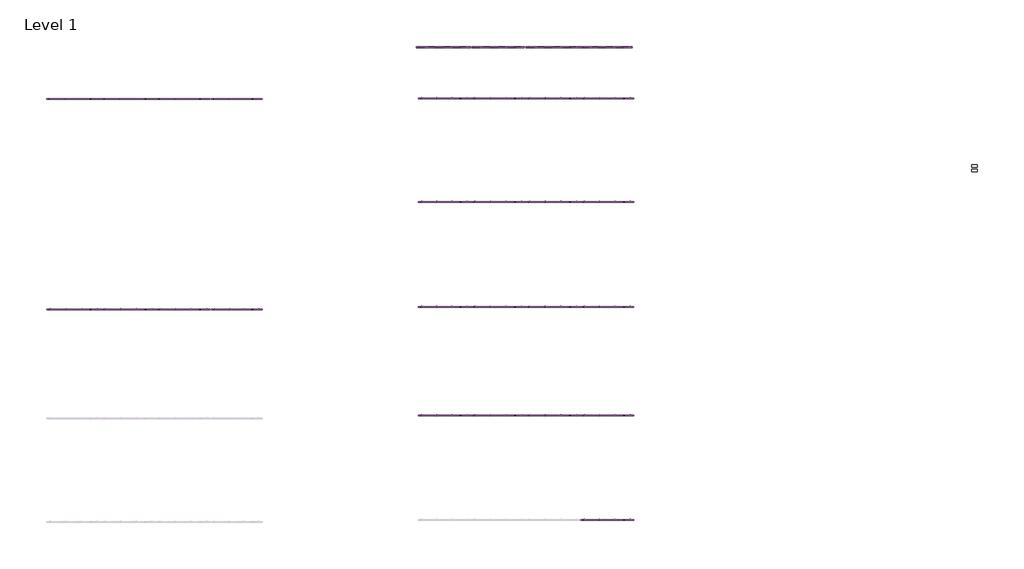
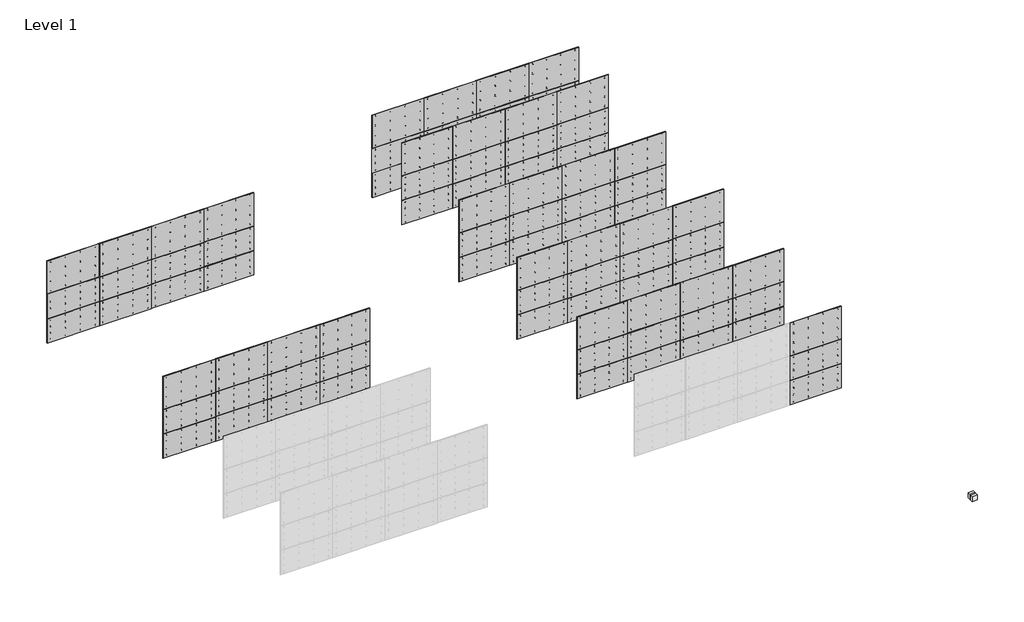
# One storey, part 2 of 2: 87 plates, 2 slabs.
"""IFC4 building model written with IfcOpenShell, lengths in millimetres."""

from ifc_helpers import new_model, si_unit, frame, origin, place, context, project, spatial, polyline, outline, extrude, transform, mapped, element, save
from components import plate_8bd8e4bf, plate_0a6a2763, plate_4df36928, plate_e7208e3d, plate_257bfe62, plate_956091e3, plate_f7e0e17a, plate_a8714ed1, plate_bebbbf79, plate_d884827e, plate_326bff25, plate_3361f752, plate_aa715eca, plate_cb0a7364, plate_44aea27e, plate_24d3d4b7, apex_01_5bf36cf1, apex_01_c70d3192, apex_01_cb4a7286, apex_01_872dbe5e, apex_01_94d3b953, apex_01_1a7e8140, apex_01_623eff0d, apex_01_2c32b375, apex_01_a5c02051, apex_01_d99c7350

model = new_model("IFC4")

# Units and contexts
model_context = context("Model", 3, world=origin())
ifc_project = project(units=[si_unit("LENGTHUNIT", "METRE", prefix="MILLI")], contexts=[model_context])

# Site, building, storey
site = spatial("IfcSite", under=ifc_project)
building = spatial("IfcBuilding", under=site)
storey = spatial("IfcBuildingStorey", under=building, Name="Level 1", Elevation=0.0)

# Plates
placement = place(None, origin())
plate_shape = plate_8bd8e4bf(model_context)
plate_2_shape = plate_0a6a2763(model_context)
element("IfcPlate", 1, ObjectType="Single-Panel-Perforated-Amico_Architectural : Sunshade", at=placement, inside=storey, context=model_context, shape_type="MappedRepresentation", body=[
    mapped(plate_shape, transform((-14878.4842074, 3313.6462305, 0.0), x_axis=(1.0, 0.0, 0.0), y_axis=(0.0, 1.0, 0.0), z_axis=(0.0, 0.0, 1.0))),
    mapped(plate_2_shape, transform((-14878.4842074, 3313.6462305, 0.0), x_axis=(1.0, 0.0, 0.0), y_axis=(0.0, 1.0, 0.0), z_axis=(0.0, 0.0, 1.0))),
])
element("IfcPlate", 2, ObjectType="Single-Panel-Perforated-Amico_Architectural : Sunshade", at=placement, inside=storey, context=model_context, shape_type="MappedRepresentation", body=[
    mapped(plate_shape, transform((-14878.4842074, 3313.6462305, 1511.3), x_axis=(1.0, 0.0, 0.0), y_axis=(0.0, 1.0, 0.0), z_axis=(0.0, 0.0, 1.0))),
    mapped(plate_2_shape, transform((-14878.4842074, 3313.6462305, 1511.3), x_axis=(1.0, 0.0, 0.0), y_axis=(0.0, 1.0, 0.0), z_axis=(0.0, 0.0, 1.0))),
])
plate_3_shape = plate_4df36928(model_context)
plate_4_shape = plate_e7208e3d(model_context)
element("IfcPlate", 3, ObjectType="Single-Panel-Perforated-Amico_Architectural : Sunshade", at=placement, inside=storey, context=model_context, shape_type="MappedRepresentation", body=[
    mapped(plate_3_shape, transform((-14878.4842074, 3313.6462305, 3022.6), x_axis=(1.0, 0.0, 0.0), y_axis=(0.0, 1.0, 0.0), z_axis=(0.0, 0.0, 1.0))),
    mapped(plate_4_shape, transform((-14878.4842074, 3313.6462305, 3022.6), x_axis=(1.0, 0.0, 0.0), y_axis=(0.0, 1.0, 0.0), z_axis=(0.0, 0.0, 1.0))),
])
plate_5_shape = plate_257bfe62(model_context)
plate_6_shape = plate_956091e3(model_context)
element("IfcPlate", 4, ObjectType="Single-Panel-Perforated-Amico_Architectural : Sunshade", at=placement, inside=storey, context=model_context, shape_type="MappedRepresentation", body=[
    mapped(plate_5_shape, transform((-11880.2630054, 3313.6462305, 0.0), x_axis=(1.0, 0.0, 0.0), y_axis=(0.0, 1.0, 0.0), z_axis=(0.0, 0.0, 1.0))),
    mapped(plate_6_shape, transform((-11880.2630054, 3313.6462305, 0.0), x_axis=(1.0, 0.0, 0.0), y_axis=(0.0, 1.0, 0.0), z_axis=(0.0, 0.0, 1.0))),
])
element("IfcPlate", 5, ObjectType="Single-Panel-Perforated-Amico_Architectural : Sunshade", at=placement, inside=storey, context=model_context, shape_type="MappedRepresentation", body=[
    mapped(plate_5_shape, transform((-8832.2630054, 3313.6462305, 0.0), x_axis=(1.0, 0.0, 0.0), y_axis=(0.0, 1.0, 0.0), z_axis=(0.0, 0.0, 1.0))),
    mapped(plate_6_shape, transform((-8832.2630054, 3313.6462305, 0.0), x_axis=(1.0, 0.0, 0.0), y_axis=(0.0, 1.0, 0.0), z_axis=(0.0, 0.0, 1.0))),
])
element("IfcPlate", 6, ObjectType="Single-Panel-Perforated-Amico_Architectural : Sunshade", at=placement, inside=storey, context=model_context, shape_type="MappedRepresentation", body=[
    mapped(plate_5_shape, transform((-11880.2630054, 3313.6462305, 1511.3), x_axis=(1.0, 0.0, 0.0), y_axis=(0.0, 1.0, 0.0), z_axis=(0.0, 0.0, 1.0))),
    mapped(plate_6_shape, transform((-11880.2630054, 3313.6462305, 1511.3), x_axis=(1.0, 0.0, 0.0), y_axis=(0.0, 1.0, 0.0), z_axis=(0.0, 0.0, 1.0))),
])
element("IfcPlate", 7, ObjectType="Single-Panel-Perforated-Amico_Architectural : Sunshade", at=placement, inside=storey, context=model_context, shape_type="MappedRepresentation", body=[
    mapped(plate_5_shape, transform((-8832.2630054, 3313.6462305, 1511.3), x_axis=(1.0, 0.0, 0.0), y_axis=(0.0, 1.0, 0.0), z_axis=(0.0, 0.0, 1.0))),
    mapped(plate_6_shape, transform((-8832.2630054, 3313.6462305, 1511.3), x_axis=(1.0, 0.0, 0.0), y_axis=(0.0, 1.0, 0.0), z_axis=(0.0, 0.0, 1.0))),
])
plate_7_shape = plate_f7e0e17a(model_context)
plate_8_shape = plate_a8714ed1(model_context)
element("IfcPlate", 8, ObjectType="Single-Panel-Perforated-Amico_Architectural : Sunshade", at=placement, inside=storey, context=model_context, shape_type="MappedRepresentation", body=[
    mapped(plate_7_shape, transform((-11880.2630054, 3313.6462305, 3022.6), x_axis=(1.0, 0.0, 0.0), y_axis=(0.0, 1.0, 0.0), z_axis=(0.0, 0.0, 1.0))),
    mapped(plate_8_shape, transform((-11880.2630054, 3313.6462305, 3022.6), x_axis=(1.0, 0.0, 0.0), y_axis=(0.0, 1.0, 0.0), z_axis=(0.0, 0.0, 1.0))),
])
element("IfcPlate", 9, ObjectType="Single-Panel-Perforated-Amico_Architectural : Sunshade", at=placement, inside=storey, context=model_context, shape_type="MappedRepresentation", body=[
    mapped(plate_7_shape, transform((-8832.2630054, 3313.6462305, 3022.6), x_axis=(1.0, 0.0, 0.0), y_axis=(0.0, 1.0, 0.0), z_axis=(0.0, 0.0, 1.0))),
    mapped(plate_8_shape, transform((-8832.2630054, 3313.6462305, 3022.6), x_axis=(1.0, 0.0, 0.0), y_axis=(0.0, 1.0, 0.0), z_axis=(0.0, 0.0, 1.0))),
])
plate_9_shape = plate_bebbbf79(model_context)
plate_10_shape = plate_d884827e(model_context)
element("IfcPlate", 10, ObjectType="Single-Panel-Perforated-Amico_Architectural : Sunshade", at=placement, inside=storey, context=model_context, shape_type="MappedRepresentation", body=[
    mapped(plate_9_shape, transform((-5810.6842074, 3313.6462305, 0.0), x_axis=(1.0, 0.0, 0.0), y_axis=(0.0, 1.0, 0.0), z_axis=(0.0, 0.0, 1.0))),
    mapped(plate_10_shape, transform((-5810.6842074, 3313.6462305, 0.0), x_axis=(1.0, 0.0, 0.0), y_axis=(0.0, 1.0, 0.0), z_axis=(0.0, 0.0, 1.0))),
])
element("IfcPlate", 11, ObjectType="Single-Panel-Perforated-Amico_Architectural : Sunshade", at=placement, inside=storey, context=model_context, shape_type="MappedRepresentation", body=[
    mapped(plate_9_shape, transform((-5810.6842074, 3313.6462305, 1511.3), x_axis=(1.0, 0.0, 0.0), y_axis=(0.0, 1.0, 0.0), z_axis=(0.0, 0.0, 1.0))),
    mapped(plate_10_shape, transform((-5810.6842074, 3313.6462305, 1511.3), x_axis=(1.0, 0.0, 0.0), y_axis=(0.0, 1.0, 0.0), z_axis=(0.0, 0.0, 1.0))),
])
plate_11_shape = plate_326bff25(model_context)
plate_12_shape = plate_3361f752(model_context)
element("IfcPlate", 12, ObjectType="Single-Panel-Perforated-Amico_Architectural : Sunshade", at=placement, inside=storey, context=model_context, shape_type="MappedRepresentation", body=[
    mapped(plate_11_shape, transform((-5810.6842074, 3313.6462305, 3022.6), x_axis=(1.0, 0.0, 0.0), y_axis=(0.0, 1.0, 0.0), z_axis=(0.0, 0.0, 1.0))),
    mapped(plate_12_shape, transform((-5810.6842074, 3313.6462305, 3022.6), x_axis=(1.0, 0.0, 0.0), y_axis=(0.0, 1.0, 0.0), z_axis=(0.0, 0.0, 1.0))),
])
element("IfcPlate", 13, ObjectType="Single-Panel-Perforated-Amico_Architectural : Bilbao", at=placement, inside=storey, context=model_context, shape_type="MappedRepresentation", body=[
    mapped(plate_9_shape, transform((-5810.6842074, -8531.0307626, 0.0), x_axis=(1.0, 0.0, 0.0), y_axis=(0.0, 1.0, 0.0), z_axis=(0.0, 0.0, 1.0))),
    mapped(plate_10_shape, transform((-5810.6842074, -8531.0307626, 0.0), x_axis=(1.0, 0.0, 0.0), y_axis=(0.0, 1.0, 0.0), z_axis=(0.0, 0.0, 1.0))),
])
element("IfcPlate", 14, ObjectType="Single-Panel-Perforated-Amico_Architectural : Bilbao", at=placement, inside=storey, context=model_context, shape_type="MappedRepresentation", body=[
    mapped(plate_9_shape, transform((-5810.6842074, -8531.0307626, 1511.3), x_axis=(1.0, 0.0, 0.0), y_axis=(0.0, 1.0, 0.0), z_axis=(0.0, 0.0, 1.0))),
    mapped(plate_10_shape, transform((-5810.6842074, -8531.0307626, 1511.3), x_axis=(1.0, 0.0, 0.0), y_axis=(0.0, 1.0, 0.0), z_axis=(0.0, 0.0, 1.0))),
])
element("IfcPlate", 15, ObjectType="Single-Panel-Perforated-Amico_Architectural : Bilbao", at=placement, inside=storey, context=model_context, shape_type="MappedRepresentation", body=[
    mapped(plate_11_shape, transform((-5810.6842074, -8531.0307626, 3022.6), x_axis=(1.0, 0.0, 0.0), y_axis=(0.0, 1.0, 0.0), z_axis=(0.0, 0.0, 1.0))),
    mapped(plate_12_shape, transform((-5810.6842074, -8531.0307626, 3022.6), x_axis=(1.0, 0.0, 0.0), y_axis=(0.0, 1.0, 0.0), z_axis=(0.0, 0.0, 1.0))),
])
element("IfcPlate", 16, ObjectType="Single-Panel-Perforated-Amico_Architectural : 1/4\" Circle - 3/8\" Staggered", at=placement, inside=storey, context=model_context, shape_type="MappedRepresentation", body=[
    mapped(plate_shape, transform((-14878.4842074, -2714.4307626, 0.0), x_axis=(1.0, 0.0, 0.0), y_axis=(0.0, 1.0, 0.0), z_axis=(0.0, 0.0, 1.0))),
    mapped(plate_2_shape, transform((-14878.4842074, -2714.4307626, 0.0), x_axis=(1.0, 0.0, 0.0), y_axis=(0.0, 1.0, 0.0), z_axis=(0.0, 0.0, 1.0))),
])
element("IfcPlate", 17, ObjectType="Single-Panel-Perforated-Amico_Architectural : 1/4\" Circle - 3/8\" Staggered", at=placement, inside=storey, context=model_context, shape_type="MappedRepresentation", body=[
    mapped(plate_shape, transform((-14878.4842074, -2714.4307626, 1511.3), x_axis=(1.0, 0.0, 0.0), y_axis=(0.0, 1.0, 0.0), z_axis=(0.0, 0.0, 1.0))),
    mapped(plate_2_shape, transform((-14878.4842074, -2714.4307626, 1511.3), x_axis=(1.0, 0.0, 0.0), y_axis=(0.0, 1.0, 0.0), z_axis=(0.0, 0.0, 1.0))),
])
element("IfcPlate", 18, ObjectType="Single-Panel-Perforated-Amico_Architectural : 1/4\" Circle - 3/8\" Staggered", at=placement, inside=storey, context=model_context, shape_type="MappedRepresentation", body=[
    mapped(plate_3_shape, transform((-14878.4842074, -2714.4307626, 3022.6), x_axis=(1.0, 0.0, 0.0), y_axis=(0.0, 1.0, 0.0), z_axis=(0.0, 0.0, 1.0))),
    mapped(plate_4_shape, transform((-14878.4842074, -2714.4307626, 3022.6), x_axis=(1.0, 0.0, 0.0), y_axis=(0.0, 1.0, 0.0), z_axis=(0.0, 0.0, 1.0))),
])
element("IfcPlate", 19, ObjectType="Single-Panel-Perforated-Amico_Architectural : 1/4\" Circle - 3/8\" Staggered", at=placement, inside=storey, context=model_context, shape_type="MappedRepresentation", body=[
    mapped(plate_5_shape, transform((-11880.2630054, -2714.4307626, 0.0), x_axis=(1.0, 0.0, 0.0), y_axis=(0.0, 1.0, 0.0), z_axis=(0.0, 0.0, 1.0))),
    mapped(plate_6_shape, transform((-11880.2630054, -2714.4307626, 0.0), x_axis=(1.0, 0.0, 0.0), y_axis=(0.0, 1.0, 0.0), z_axis=(0.0, 0.0, 1.0))),
])
element("IfcPlate", 20, ObjectType="Single-Panel-Perforated-Amico_Architectural : 1/4\" Circle - 3/8\" Staggered", at=placement, inside=storey, context=model_context, shape_type="MappedRepresentation", body=[
    mapped(plate_5_shape, transform((-8832.2630054, -2714.4307626, 0.0), x_axis=(1.0, 0.0, 0.0), y_axis=(0.0, 1.0, 0.0), z_axis=(0.0, 0.0, 1.0))),
    mapped(plate_6_shape, transform((-8832.2630054, -2714.4307626, 0.0), x_axis=(1.0, 0.0, 0.0), y_axis=(0.0, 1.0, 0.0), z_axis=(0.0, 0.0, 1.0))),
])
element("IfcPlate", 21, ObjectType="Single-Panel-Perforated-Amico_Architectural : 1/4\" Circle - 3/8\" Staggered", at=placement, inside=storey, context=model_context, shape_type="MappedRepresentation", body=[
    mapped(plate_5_shape, transform((-11880.2630054, -2714.4307626, 1511.3), x_axis=(1.0, 0.0, 0.0), y_axis=(0.0, 1.0, 0.0), z_axis=(0.0, 0.0, 1.0))),
    mapped(plate_6_shape, transform((-11880.2630054, -2714.4307626, 1511.3), x_axis=(1.0, 0.0, 0.0), y_axis=(0.0, 1.0, 0.0), z_axis=(0.0, 0.0, 1.0))),
])
element("IfcPlate", 22, ObjectType="Single-Panel-Perforated-Amico_Architectural : 1/4\" Circle - 3/8\" Staggered", at=placement, inside=storey, context=model_context, shape_type="MappedRepresentation", body=[
    mapped(plate_5_shape, transform((-8832.2630054, -2714.4307626, 1511.3), x_axis=(1.0, 0.0, 0.0), y_axis=(0.0, 1.0, 0.0), z_axis=(0.0, 0.0, 1.0))),
    mapped(plate_6_shape, transform((-8832.2630054, -2714.4307626, 1511.3), x_axis=(1.0, 0.0, 0.0), y_axis=(0.0, 1.0, 0.0), z_axis=(0.0, 0.0, 1.0))),
])
element("IfcPlate", 23, ObjectType="Single-Panel-Perforated-Amico_Architectural : 1/4\" Circle - 3/8\" Staggered", at=placement, inside=storey, context=model_context, shape_type="MappedRepresentation", body=[
    mapped(plate_7_shape, transform((-11880.2630054, -2714.4307626, 3022.6), x_axis=(1.0, 0.0, 0.0), y_axis=(0.0, 1.0, 0.0), z_axis=(0.0, 0.0, 1.0))),
    mapped(plate_8_shape, transform((-11880.2630054, -2714.4307626, 3022.6), x_axis=(1.0, 0.0, 0.0), y_axis=(0.0, 1.0, 0.0), z_axis=(0.0, 0.0, 1.0))),
])
element("IfcPlate", 24, ObjectType="Single-Panel-Perforated-Amico_Architectural : 1/4\" Circle - 3/8\" Staggered", at=placement, inside=storey, context=model_context, shape_type="MappedRepresentation", body=[
    mapped(plate_7_shape, transform((-8832.2630054, -2714.4307626, 3022.6), x_axis=(1.0, 0.0, 0.0), y_axis=(0.0, 1.0, 0.0), z_axis=(0.0, 0.0, 1.0))),
    mapped(plate_8_shape, transform((-8832.2630054, -2714.4307626, 3022.6), x_axis=(1.0, 0.0, 0.0), y_axis=(0.0, 1.0, 0.0), z_axis=(0.0, 0.0, 1.0))),
])
element("IfcPlate", 25, ObjectType="Single-Panel-Perforated-Amico_Architectural : 1/4\" Circle - 3/8\" Staggered", at=placement, inside=storey, context=model_context, shape_type="MappedRepresentation", body=[
    mapped(plate_9_shape, transform((-5810.6842074, -2714.4307626, 0.0), x_axis=(1.0, 0.0, 0.0), y_axis=(0.0, 1.0, 0.0), z_axis=(0.0, 0.0, 1.0))),
    mapped(plate_10_shape, transform((-5810.6842074, -2714.4307626, 0.0), x_axis=(1.0, 0.0, 0.0), y_axis=(0.0, 1.0, 0.0), z_axis=(0.0, 0.0, 1.0))),
])
element("IfcPlate", 26, ObjectType="Single-Panel-Perforated-Amico_Architectural : 1/4\" Circle - 3/8\" Staggered", at=placement, inside=storey, context=model_context, shape_type="MappedRepresentation", body=[
    mapped(plate_9_shape, transform((-5810.6842074, -2714.4307626, 1511.3), x_axis=(1.0, 0.0, 0.0), y_axis=(0.0, 1.0, 0.0), z_axis=(0.0, 0.0, 1.0))),
    mapped(plate_10_shape, transform((-5810.6842074, -2714.4307626, 1511.3), x_axis=(1.0, 0.0, 0.0), y_axis=(0.0, 1.0, 0.0), z_axis=(0.0, 0.0, 1.0))),
])
element("IfcPlate", 27, ObjectType="Single-Panel-Perforated-Amico_Architectural : 1/4\" Circle - 3/8\" Staggered", at=placement, inside=storey, context=model_context, shape_type="MappedRepresentation", body=[
    mapped(plate_11_shape, transform((-5810.6842074, -2714.4307626, 3022.6), x_axis=(1.0, 0.0, 0.0), y_axis=(0.0, 1.0, 0.0), z_axis=(0.0, 0.0, 1.0))),
    mapped(plate_12_shape, transform((-5810.6842074, -2714.4307626, 3022.6), x_axis=(1.0, 0.0, 0.0), y_axis=(0.0, 1.0, 0.0), z_axis=(0.0, 0.0, 1.0))),
])
element("IfcPlate", 28, ObjectType="Single-Panel-Perforated-Amico_Architectural : 3/4\" Circle - 1\" Staggered", at=placement, inside=storey, context=model_context, shape_type="MappedRepresentation", body=[
    mapped(plate_5_shape, transform((-35489.5630054, 3186.6462305, 0.0), x_axis=(1.0, 0.0, 0.0), y_axis=(0.0, 1.0, 0.0), z_axis=(0.0, 0.0, 1.0))),
    mapped(plate_6_shape, transform((-35489.5630054, 3186.6462305, 0.0), x_axis=(1.0, 0.0, 0.0), y_axis=(0.0, 1.0, 0.0), z_axis=(0.0, 0.0, 1.0))),
])
element("IfcPlate", 29, ObjectType="Single-Panel-Perforated-Amico_Architectural : 3/4\" Circle - 1\" Staggered", at=placement, inside=storey, context=model_context, shape_type="MappedRepresentation", body=[
    mapped(plate_5_shape, transform((-32441.5630054, 3186.6462305, 0.0), x_axis=(1.0, 0.0, 0.0), y_axis=(0.0, 1.0, 0.0), z_axis=(0.0, 0.0, 1.0))),
    mapped(plate_6_shape, transform((-32441.5630054, 3186.6462305, 0.0), x_axis=(1.0, 0.0, 0.0), y_axis=(0.0, 1.0, 0.0), z_axis=(0.0, 0.0, 1.0))),
])
element("IfcPlate", 30, ObjectType="Single-Panel-Perforated-Amico_Architectural : 3/4\" Circle - 1\" Staggered", at=placement, inside=storey, context=model_context, shape_type="MappedRepresentation", body=[
    mapped(plate_5_shape, transform((-29393.5630054, 3186.6462305, 0.0), x_axis=(1.0, 0.0, 0.0), y_axis=(0.0, 1.0, 0.0), z_axis=(0.0, 0.0, 1.0))),
    mapped(plate_6_shape, transform((-29393.5630054, 3186.6462305, 0.0), x_axis=(1.0, 0.0, 0.0), y_axis=(0.0, 1.0, 0.0), z_axis=(0.0, 0.0, 1.0))),
])
element("IfcPlate", 31, ObjectType="Single-Panel-Perforated-Amico_Architectural : 3/4\" Circle - 1\" Staggered", at=placement, inside=storey, context=model_context, shape_type="MappedRepresentation", body=[
    mapped(plate_5_shape, transform((-35489.5630054, 3186.6462305, 1511.3), x_axis=(1.0, 0.0, 0.0), y_axis=(0.0, 1.0, 0.0), z_axis=(0.0, 0.0, 1.0))),
    mapped(plate_6_shape, transform((-35489.5630054, 3186.6462305, 1511.3), x_axis=(1.0, 0.0, 0.0), y_axis=(0.0, 1.0, 0.0), z_axis=(0.0, 0.0, 1.0))),
])
element("IfcPlate", 32, ObjectType="Single-Panel-Perforated-Amico_Architectural : 3/4\" Circle - 1\" Staggered", at=placement, inside=storey, context=model_context, shape_type="MappedRepresentation", body=[
    mapped(plate_5_shape, transform((-32441.5630054, 3186.6462305, 1511.3), x_axis=(1.0, 0.0, 0.0), y_axis=(0.0, 1.0, 0.0), z_axis=(0.0, 0.0, 1.0))),
    mapped(plate_6_shape, transform((-32441.5630054, 3186.6462305, 1511.3), x_axis=(1.0, 0.0, 0.0), y_axis=(0.0, 1.0, 0.0), z_axis=(0.0, 0.0, 1.0))),
])
element("IfcPlate", 33, ObjectType="Single-Panel-Perforated-Amico_Architectural : 3/4\" Circle - 1\" Staggered", at=placement, inside=storey, context=model_context, shape_type="MappedRepresentation", body=[
    mapped(plate_5_shape, transform((-29393.5630054, 3186.6462305, 1511.3), x_axis=(1.0, 0.0, 0.0), y_axis=(0.0, 1.0, 0.0), z_axis=(0.0, 0.0, 1.0))),
    mapped(plate_6_shape, transform((-29393.5630054, 3186.6462305, 1511.3), x_axis=(1.0, 0.0, 0.0), y_axis=(0.0, 1.0, 0.0), z_axis=(0.0, 0.0, 1.0))),
])
element("IfcPlate", 34, ObjectType="Single-Panel-Perforated-Amico_Architectural : 3/4\" Circle - 1\" Staggered", at=placement, inside=storey, context=model_context, shape_type="MappedRepresentation", body=[
    mapped(plate_7_shape, transform((-35489.5630054, 3186.6462305, 3022.6), x_axis=(1.0, 0.0, 0.0), y_axis=(0.0, 1.0, 0.0), z_axis=(0.0, 0.0, 1.0))),
    mapped(plate_8_shape, transform((-35489.5630054, 3186.6462305, 3022.6), x_axis=(1.0, 0.0, 0.0), y_axis=(0.0, 1.0, 0.0), z_axis=(0.0, 0.0, 1.0))),
])
element("IfcPlate", 35, ObjectType="Single-Panel-Perforated-Amico_Architectural : 3/4\" Circle - 1\" Staggered", at=placement, inside=storey, context=model_context, shape_type="MappedRepresentation", body=[
    mapped(plate_7_shape, transform((-32441.5630054, 3186.6462305, 3022.6), x_axis=(1.0, 0.0, 0.0), y_axis=(0.0, 1.0, 0.0), z_axis=(0.0, 0.0, 1.0))),
    mapped(plate_8_shape, transform((-32441.5630054, 3186.6462305, 3022.6), x_axis=(1.0, 0.0, 0.0), y_axis=(0.0, 1.0, 0.0), z_axis=(0.0, 0.0, 1.0))),
])
element("IfcPlate", 36, ObjectType="Single-Panel-Perforated-Amico_Architectural : 3/4\" Circle - 1\" Staggered", at=placement, inside=storey, context=model_context, shape_type="MappedRepresentation", body=[
    mapped(plate_7_shape, transform((-29393.5630054, 3186.6462305, 3022.6), x_axis=(1.0, 0.0, 0.0), y_axis=(0.0, 1.0, 0.0), z_axis=(0.0, 0.0, 1.0))),
    mapped(plate_8_shape, transform((-29393.5630054, 3186.6462305, 3022.6), x_axis=(1.0, 0.0, 0.0), y_axis=(0.0, 1.0, 0.0), z_axis=(0.0, 0.0, 1.0))),
])
plate_13_shape = plate_aa715eca(model_context)
plate_14_shape = plate_cb0a7364(model_context)
element("IfcPlate", 37, ObjectType="Single-Panel-Perforated-Amico_Architectural : 3/4\" Circle - 1\" Staggered", at=placement, inside=storey, context=model_context, shape_type="MappedRepresentation", body=[
    mapped(plate_13_shape, transform((-26421.7630054, 3186.6462305, 0.0), x_axis=(1.0, 0.0, 0.0), y_axis=(0.0, 1.0, 0.0), z_axis=(0.0, 0.0, 1.0))),
    mapped(plate_14_shape, transform((-26421.7630054, 3186.6462305, 0.0), x_axis=(1.0, 0.0, 0.0), y_axis=(0.0, 1.0, 0.0), z_axis=(0.0, 0.0, 1.0))),
])
element("IfcPlate", 38, ObjectType="Single-Panel-Perforated-Amico_Architectural : 3/4\" Circle - 1\" Staggered", at=placement, inside=storey, context=model_context, shape_type="MappedRepresentation", body=[
    mapped(plate_13_shape, transform((-26421.7630054, 3186.6462305, 1511.3), x_axis=(1.0, 0.0, 0.0), y_axis=(0.0, 1.0, 0.0), z_axis=(0.0, 0.0, 1.0))),
    mapped(plate_14_shape, transform((-26421.7630054, 3186.6462305, 1511.3), x_axis=(1.0, 0.0, 0.0), y_axis=(0.0, 1.0, 0.0), z_axis=(0.0, 0.0, 1.0))),
])
plate_15_shape = plate_44aea27e(model_context)
plate_16_shape = plate_24d3d4b7(model_context)
element("IfcPlate", 39, ObjectType="Single-Panel-Perforated-Amico_Architectural : 3/4\" Circle - 1\" Staggered", at=placement, inside=storey, context=model_context, shape_type="MappedRepresentation", body=[
    mapped(plate_15_shape, transform((-26421.7630054, 3186.6462305, 3022.6), x_axis=(1.0, 0.0, 0.0), y_axis=(0.0, 1.0, 0.0), z_axis=(0.0, 0.0, 1.0))),
    mapped(plate_16_shape, transform((-26421.7630054, 3186.6462305, 3022.6), x_axis=(1.0, 0.0, 0.0), y_axis=(0.0, 1.0, 0.0), z_axis=(0.0, 0.0, 1.0))),
])
element("IfcPlate", 40, ObjectType="Single-Panel-Perforated-Amico_Architectural : 9/16\" Circle - 11/16\" Staggered", at=placement, inside=storey, context=model_context, shape_type="MappedRepresentation", body=[
    mapped(plate_shape, transform((-14878.4842074, 14922.2272827, 0.0), x_axis=(1.0, 0.0, 0.0), y_axis=(0.0, 1.0, 0.0), z_axis=(0.0, 0.0, 1.0))),
    mapped(plate_2_shape, transform((-14878.4842074, 14922.2272827, 0.0), x_axis=(1.0, 0.0, 0.0), y_axis=(0.0, 1.0, 0.0), z_axis=(0.0, 0.0, 1.0))),
])
element("IfcPlate", 41, ObjectType="Single-Panel-Perforated-Amico_Architectural : 9/16\" Circle - 11/16\" Staggered", at=placement, inside=storey, context=model_context, shape_type="MappedRepresentation", body=[
    mapped(plate_shape, transform((-14878.4842074, 14922.2272827, 1511.3), x_axis=(1.0, 0.0, 0.0), y_axis=(0.0, 1.0, 0.0), z_axis=(0.0, 0.0, 1.0))),
    mapped(plate_2_shape, transform((-14878.4842074, 14922.2272827, 1511.3), x_axis=(1.0, 0.0, 0.0), y_axis=(0.0, 1.0, 0.0), z_axis=(0.0, 0.0, 1.0))),
])
element("IfcPlate", 42, ObjectType="Single-Panel-Perforated-Amico_Architectural : 9/16\" Circle - 11/16\" Staggered", at=placement, inside=storey, context=model_context, shape_type="MappedRepresentation", body=[
    mapped(plate_3_shape, transform((-14878.4842074, 14922.2272827, 3022.6), x_axis=(1.0, 0.0, 0.0), y_axis=(0.0, 1.0, 0.0), z_axis=(0.0, 0.0, 1.0))),
    mapped(plate_4_shape, transform((-14878.4842074, 14922.2272827, 3022.6), x_axis=(1.0, 0.0, 0.0), y_axis=(0.0, 1.0, 0.0), z_axis=(0.0, 0.0, 1.0))),
])
element("IfcPlate", 43, ObjectType="Single-Panel-Perforated-Amico_Architectural : 9/16\" Circle - 11/16\" Staggered", at=placement, inside=storey, context=model_context, shape_type="MappedRepresentation", body=[
    mapped(plate_5_shape, transform((-11880.2630054, 14922.2272827, 0.0), x_axis=(1.0, 0.0, 0.0), y_axis=(0.0, 1.0, 0.0), z_axis=(0.0, 0.0, 1.0))),
    mapped(plate_6_shape, transform((-11880.2630054, 14922.2272827, 0.0), x_axis=(1.0, 0.0, 0.0), y_axis=(0.0, 1.0, 0.0), z_axis=(0.0, 0.0, 1.0))),
])
element("IfcPlate", 44, ObjectType="Single-Panel-Perforated-Amico_Architectural : 9/16\" Circle - 11/16\" Staggered", at=placement, inside=storey, context=model_context, shape_type="MappedRepresentation", body=[
    mapped(plate_5_shape, transform((-8832.2630054, 14922.2272827, 0.0), x_axis=(1.0, 0.0, 0.0), y_axis=(0.0, 1.0, 0.0), z_axis=(0.0, 0.0, 1.0))),
    mapped(plate_6_shape, transform((-8832.2630054, 14922.2272827, 0.0), x_axis=(1.0, 0.0, 0.0), y_axis=(0.0, 1.0, 0.0), z_axis=(0.0, 0.0, 1.0))),
])
element("IfcPlate", 45, ObjectType="Single-Panel-Perforated-Amico_Architectural : 9/16\" Circle - 11/16\" Staggered", at=placement, inside=storey, context=model_context, shape_type="MappedRepresentation", body=[
    mapped(plate_5_shape, transform((-11880.2630054, 14922.2272827, 1511.3), x_axis=(1.0, 0.0, 0.0), y_axis=(0.0, 1.0, 0.0), z_axis=(0.0, 0.0, 1.0))),
    mapped(plate_6_shape, transform((-11880.2630054, 14922.2272827, 1511.3), x_axis=(1.0, 0.0, 0.0), y_axis=(0.0, 1.0, 0.0), z_axis=(0.0, 0.0, 1.0))),
])
element("IfcPlate", 46, ObjectType="Single-Panel-Perforated-Amico_Architectural : 9/16\" Circle - 11/16\" Staggered", at=placement, inside=storey, context=model_context, shape_type="MappedRepresentation", body=[
    mapped(plate_5_shape, transform((-8832.2630054, 14922.2272827, 1511.3), x_axis=(1.0, 0.0, 0.0), y_axis=(0.0, 1.0, 0.0), z_axis=(0.0, 0.0, 1.0))),
    mapped(plate_6_shape, transform((-8832.2630054, 14922.2272827, 1511.3), x_axis=(1.0, 0.0, 0.0), y_axis=(0.0, 1.0, 0.0), z_axis=(0.0, 0.0, 1.0))),
])
element("IfcPlate", 47, ObjectType="Single-Panel-Perforated-Amico_Architectural : 9/16\" Circle - 11/16\" Staggered", at=placement, inside=storey, context=model_context, shape_type="MappedRepresentation", body=[
    mapped(plate_7_shape, transform((-11880.2630054, 14922.2272827, 3022.6), x_axis=(1.0, 0.0, 0.0), y_axis=(0.0, 1.0, 0.0), z_axis=(0.0, 0.0, 1.0))),
    mapped(plate_8_shape, transform((-11880.2630054, 14922.2272827, 3022.6), x_axis=(1.0, 0.0, 0.0), y_axis=(0.0, 1.0, 0.0), z_axis=(0.0, 0.0, 1.0))),
])
element("IfcPlate", 48, ObjectType="Single-Panel-Perforated-Amico_Architectural : 9/16\" Circle - 11/16\" Staggered", at=placement, inside=storey, context=model_context, shape_type="MappedRepresentation", body=[
    mapped(plate_7_shape, transform((-8832.2630054, 14922.2272827, 3022.6), x_axis=(1.0, 0.0, 0.0), y_axis=(0.0, 1.0, 0.0), z_axis=(0.0, 0.0, 1.0))),
    mapped(plate_8_shape, transform((-8832.2630054, 14922.2272827, 3022.6), x_axis=(1.0, 0.0, 0.0), y_axis=(0.0, 1.0, 0.0), z_axis=(0.0, 0.0, 1.0))),
])
element("IfcPlate", 49, ObjectType="Single-Panel-Perforated-Amico_Architectural : 9/16\" Circle - 11/16\" Staggered", at=placement, inside=storey, context=model_context, shape_type="MappedRepresentation", body=[
    mapped(plate_9_shape, transform((-5810.6842074, 14922.2272827, 0.0), x_axis=(1.0, 0.0, 0.0), y_axis=(0.0, 1.0, 0.0), z_axis=(0.0, 0.0, 1.0))),
    mapped(plate_10_shape, transform((-5810.6842074, 14922.2272827, 0.0), x_axis=(1.0, 0.0, 0.0), y_axis=(0.0, 1.0, 0.0), z_axis=(0.0, 0.0, 1.0))),
])
element("IfcPlate", 50, ObjectType="Single-Panel-Perforated-Amico_Architectural : 9/16\" Circle - 11/16\" Staggered", at=placement, inside=storey, context=model_context, shape_type="MappedRepresentation", body=[
    mapped(plate_9_shape, transform((-5810.6842074, 14922.2272827, 1511.3), x_axis=(1.0, 0.0, 0.0), y_axis=(0.0, 1.0, 0.0), z_axis=(0.0, 0.0, 1.0))),
    mapped(plate_10_shape, transform((-5810.6842074, 14922.2272827, 1511.3), x_axis=(1.0, 0.0, 0.0), y_axis=(0.0, 1.0, 0.0), z_axis=(0.0, 0.0, 1.0))),
])
element("IfcPlate", 51, ObjectType="Single-Panel-Perforated-Amico_Architectural : 9/16\" Circle - 11/16\" Staggered", at=placement, inside=storey, context=model_context, shape_type="MappedRepresentation", body=[
    mapped(plate_11_shape, transform((-5810.6842074, 14922.2272827, 3022.6), x_axis=(1.0, 0.0, 0.0), y_axis=(0.0, 1.0, 0.0), z_axis=(0.0, 0.0, 1.0))),
    mapped(plate_12_shape, transform((-5810.6842074, 14922.2272827, 3022.6), x_axis=(1.0, 0.0, 0.0), y_axis=(0.0, 1.0, 0.0), z_axis=(0.0, 0.0, 1.0))),
])
element("IfcPlate", 52, ObjectType="Single-Panel-Perforated-Amico_Architectural : Apex 01", at=placement, inside=storey, context=model_context, shape_type="MappedRepresentation", body=[
    mapped(plate_5_shape, transform((-35489.5630054, 14872.2337305, 0.0), x_axis=(1.0, 0.0, 0.0), y_axis=(0.0, 1.0, 0.0), z_axis=(0.0, 0.0, 1.0))),
    mapped(plate_6_shape, transform((-35489.5630054, 14872.2337305, 0.0), x_axis=(1.0, 0.0, 0.0), y_axis=(0.0, 1.0, 0.0), z_axis=(0.0, 0.0, 1.0))),
])
element("IfcPlate", 53, ObjectType="Single-Panel-Perforated-Amico_Architectural : Apex 01", at=placement, inside=storey, context=model_context, shape_type="MappedRepresentation", body=[
    mapped(plate_5_shape, transform((-29393.5630054, 14872.2337305, 0.0), x_axis=(1.0, 0.0, 0.0), y_axis=(0.0, 1.0, 0.0), z_axis=(0.0, 0.0, 1.0))),
    mapped(plate_6_shape, transform((-29393.5630054, 14872.2337305, 0.0), x_axis=(1.0, 0.0, 0.0), y_axis=(0.0, 1.0, 0.0), z_axis=(0.0, 0.0, 1.0))),
])
element("IfcPlate", 54, ObjectType="Single-Panel-Perforated-Amico_Architectural : Apex 01", at=placement, inside=storey, context=model_context, shape_type="MappedRepresentation", body=[
    mapped(plate_5_shape, transform((-32441.5630054, 14872.2337305, 0.0), x_axis=(1.0, 0.0, 0.0), y_axis=(0.0, 1.0, 0.0), z_axis=(0.0, 0.0, 1.0))),
    mapped(plate_6_shape, transform((-32441.5630054, 14872.2337305, 0.0), x_axis=(1.0, 0.0, 0.0), y_axis=(0.0, 1.0, 0.0), z_axis=(0.0, 0.0, 1.0))),
])
element("IfcPlate", 55, ObjectType="Single-Panel-Perforated-Amico_Architectural : Apex 01", at=placement, inside=storey, context=model_context, shape_type="MappedRepresentation", body=[
    mapped(plate_5_shape, transform((-32441.5630054, 14872.2337305, 1511.3), x_axis=(1.0, 0.0, 0.0), y_axis=(0.0, 1.0, 0.0), z_axis=(0.0, 0.0, 1.0))),
    mapped(plate_6_shape, transform((-32441.5630054, 14872.2337305, 1511.3), x_axis=(1.0, 0.0, 0.0), y_axis=(0.0, 1.0, 0.0), z_axis=(0.0, 0.0, 1.0))),
])
element("IfcPlate", 56, ObjectType="Single-Panel-Perforated-Amico_Architectural : Apex 01", at=placement, inside=storey, context=model_context, shape_type="MappedRepresentation", body=[
    mapped(plate_5_shape, transform((-29393.5630054, 14872.2337305, 1511.3), x_axis=(1.0, 0.0, 0.0), y_axis=(0.0, 1.0, 0.0), z_axis=(0.0, 0.0, 1.0))),
    mapped(plate_6_shape, transform((-29393.5630054, 14872.2337305, 1511.3), x_axis=(1.0, 0.0, 0.0), y_axis=(0.0, 1.0, 0.0), z_axis=(0.0, 0.0, 1.0))),
])
element("IfcPlate", 57, ObjectType="Single-Panel-Perforated-Amico_Architectural : Apex 01", at=placement, inside=storey, context=model_context, shape_type="MappedRepresentation", body=[
    mapped(plate_5_shape, transform((-14928.2630054, 17761.935995, 0.0), x_axis=(1.0, 0.0, 0.0), y_axis=(0.0, 1.0, 0.0), z_axis=(0.0, 0.0, 1.0))),
    mapped(plate_6_shape, transform((-14928.2630054, 17761.935995, 0.0), x_axis=(1.0, 0.0, 0.0), y_axis=(0.0, 1.0, 0.0), z_axis=(0.0, 0.0, 1.0))),
])
element("IfcPlate", 58, ObjectType="Single-Panel-Perforated-Amico_Architectural : Apex 01", at=placement, inside=storey, context=model_context, shape_type="MappedRepresentation", body=[
    mapped(plate_5_shape, transform((-8832.2630054, 17761.935995, 0.0), x_axis=(1.0, 0.0, 0.0), y_axis=(0.0, 1.0, 0.0), z_axis=(0.0, 0.0, 1.0))),
    mapped(plate_6_shape, transform((-8832.2630054, 17761.935995, 0.0), x_axis=(1.0, 0.0, 0.0), y_axis=(0.0, 1.0, 0.0), z_axis=(0.0, 0.0, 1.0))),
])
element("IfcPlate", 59, ObjectType="Single-Panel-Perforated-Amico_Architectural : Apex 01", at=placement, inside=storey, context=model_context, shape_type="MappedRepresentation", body=[
    mapped(plate_5_shape, transform((-11880.2630054, 17761.935995, 1511.3), x_axis=(1.0, 0.0, 0.0), y_axis=(0.0, 1.0, 0.0), z_axis=(0.0, 0.0, 1.0))),
    mapped(plate_6_shape, transform((-11880.2630054, 17761.935995, 1511.3), x_axis=(1.0, 0.0, 0.0), y_axis=(0.0, 1.0, 0.0), z_axis=(0.0, 0.0, 1.0))),
])
element("IfcPlate", 60, ObjectType="Single-Panel-Perforated-Amico_Architectural : Apex 01", at=placement, inside=storey, context=model_context, shape_type="MappedRepresentation", body=[
    mapped(plate_5_shape, transform((-8832.2630054, 17761.935995, 1511.3), x_axis=(1.0, 0.0, 0.0), y_axis=(0.0, 1.0, 0.0), z_axis=(0.0, 0.0, 1.0))),
    mapped(plate_6_shape, transform((-8832.2630054, 17761.935995, 1511.3), x_axis=(1.0, 0.0, 0.0), y_axis=(0.0, 1.0, 0.0), z_axis=(0.0, 0.0, 1.0))),
])
apex_01_shape = apex_01_5bf36cf1(model_context)
apex_01_2_shape = apex_01_c70d3192(model_context)
element("IfcPlate", 61, ObjectType="Single-Panel-Perforated-Amico_Architectural : Apex 01", at=placement, inside=storey, context=model_context, shape_type="MappedRepresentation", body=[
    mapped(apex_01_shape, transform((-35489.5630054, 14872.2337305, 1511.3), x_axis=(1.0, 0.0, 0.0), y_axis=(0.0, 1.0, 0.0), z_axis=(0.0, 0.0, 1.0))),
    mapped(apex_01_2_shape, transform((-35489.5630054, 14872.2337305, 1511.3), x_axis=(1.0, 0.0, 0.0), y_axis=(0.0, 1.0, 0.0), z_axis=(0.0, 0.0, 1.0))),
])
element("IfcPlate", 62, ObjectType="Single-Panel-Perforated-Amico_Architectural : Apex 01", at=placement, inside=storey, context=model_context, shape_type="MappedRepresentation", body=[
    mapped(apex_01_shape, transform((-14928.2630054, 17761.935995, 1511.3), x_axis=(1.0, 0.0, 0.0), y_axis=(0.0, 1.0, 0.0), z_axis=(0.0, 0.0, 1.0))),
    mapped(apex_01_2_shape, transform((-14928.2630054, 17761.935995, 1511.3), x_axis=(1.0, 0.0, 0.0), y_axis=(0.0, 1.0, 0.0), z_axis=(0.0, 0.0, 1.0))),
])
apex_01_3_shape = apex_01_cb4a7286(model_context)
apex_01_4_shape = apex_01_872dbe5e(model_context)
element("IfcPlate", 63, ObjectType="Single-Panel-Perforated-Amico_Architectural : Apex 01", at=placement, inside=storey, context=model_context, shape_type="MappedRepresentation", body=[
    mapped(apex_01_3_shape, transform((-35489.5630054, 14872.2337305, 3022.6), x_axis=(1.0, 0.0, 0.0), y_axis=(0.0, 1.0, 0.0), z_axis=(0.0, 0.0, 1.0))),
    mapped(apex_01_4_shape, transform((-35489.5630054, 14872.2337305, 3022.6), x_axis=(1.0, 0.0, 0.0), y_axis=(0.0, 1.0, 0.0), z_axis=(0.0, 0.0, 1.0))),
])
element("IfcPlate", 64, ObjectType="Single-Panel-Perforated-Amico_Architectural : Apex 01", at=placement, inside=storey, context=model_context, shape_type="MappedRepresentation", body=[
    mapped(apex_01_3_shape, transform((-14928.2630054, 17761.935995, 3022.6), x_axis=(1.0, 0.0, 0.0), y_axis=(0.0, 1.0, 0.0), z_axis=(0.0, 0.0, 1.0))),
    mapped(apex_01_4_shape, transform((-14928.2630054, 17761.935995, 3022.6), x_axis=(1.0, 0.0, 0.0), y_axis=(0.0, 1.0, 0.0), z_axis=(0.0, 0.0, 1.0))),
])
apex_01_5_shape = apex_01_94d3b953(model_context)
apex_01_6_shape = apex_01_1a7e8140(model_context)
element("IfcPlate", 65, ObjectType="Single-Panel-Perforated-Amico_Architectural : Apex 01", at=placement, inside=storey, context=model_context, shape_type="MappedRepresentation", body=[
    mapped(apex_01_5_shape, transform((-11880.2630054, 17761.935995, 0.0), x_axis=(1.0, 0.0, 0.0), y_axis=(0.0, 1.0, 0.0), z_axis=(0.0, 0.0, 1.0))),
    mapped(apex_01_6_shape, transform((-11880.2630054, 17761.935995, 0.0), x_axis=(1.0, 0.0, 0.0), y_axis=(0.0, 1.0, 0.0), z_axis=(0.0, 0.0, 1.0))),
])
apex_01_7_shape = apex_01_623eff0d(model_context)
apex_01_8_shape = apex_01_2c32b375(model_context)
element("IfcPlate", 66, ObjectType="Single-Panel-Perforated-Amico_Architectural : Apex 01", at=placement, inside=storey, context=model_context, shape_type="MappedRepresentation", body=[
    mapped(apex_01_7_shape, transform((-32441.5630054, 14872.2337305, 3022.6), x_axis=(1.0, 0.0, 0.0), y_axis=(0.0, 1.0, 0.0), z_axis=(0.0, 0.0, 1.0))),
    mapped(apex_01_8_shape, transform((-32441.5630054, 14872.2337305, 3022.6), x_axis=(1.0, 0.0, 0.0), y_axis=(0.0, 1.0, 0.0), z_axis=(0.0, 0.0, 1.0))),
])
element("IfcPlate", 67, ObjectType="Single-Panel-Perforated-Amico_Architectural : Apex 01", at=placement, inside=storey, context=model_context, shape_type="MappedRepresentation", body=[
    mapped(apex_01_7_shape, transform((-29393.5630054, 14872.2337305, 3022.6), x_axis=(1.0, 0.0, 0.0), y_axis=(0.0, 1.0, 0.0), z_axis=(0.0, 0.0, 1.0))),
    mapped(apex_01_8_shape, transform((-29393.5630054, 14872.2337305, 3022.6), x_axis=(1.0, 0.0, 0.0), y_axis=(0.0, 1.0, 0.0), z_axis=(0.0, 0.0, 1.0))),
])
element("IfcPlate", 68, ObjectType="Single-Panel-Perforated-Amico_Architectural : Apex 01", at=placement, inside=storey, context=model_context, shape_type="MappedRepresentation", body=[
    mapped(apex_01_7_shape, transform((-11880.2630054, 17761.935995, 3022.6), x_axis=(1.0, 0.0, 0.0), y_axis=(0.0, 1.0, 0.0), z_axis=(0.0, 0.0, 1.0))),
    mapped(apex_01_8_shape, transform((-11880.2630054, 17761.935995, 3022.6), x_axis=(1.0, 0.0, 0.0), y_axis=(0.0, 1.0, 0.0), z_axis=(0.0, 0.0, 1.0))),
])
element("IfcPlate", 69, ObjectType="Single-Panel-Perforated-Amico_Architectural : Apex 01", at=placement, inside=storey, context=model_context, shape_type="MappedRepresentation", body=[
    mapped(apex_01_7_shape, transform((-8832.2630054, 17761.935995, 3022.6), x_axis=(1.0, 0.0, 0.0), y_axis=(0.0, 1.0, 0.0), z_axis=(0.0, 0.0, 1.0))),
    mapped(apex_01_8_shape, transform((-8832.2630054, 17761.935995, 3022.6), x_axis=(1.0, 0.0, 0.0), y_axis=(0.0, 1.0, 0.0), z_axis=(0.0, 0.0, 1.0))),
])
element("IfcPlate", 70, ObjectType="Single-Panel-Perforated-Amico_Architectural : Apex 01", at=placement, inside=storey, context=model_context, shape_type="MappedRepresentation", body=[
    mapped(plate_13_shape, transform((-26421.7630054, 14872.2337305, 0.0), x_axis=(1.0, 0.0, 0.0), y_axis=(0.0, 1.0, 0.0), z_axis=(0.0, 0.0, 1.0))),
    mapped(plate_14_shape, transform((-26421.7630054, 14872.2337305, 0.0), x_axis=(1.0, 0.0, 0.0), y_axis=(0.0, 1.0, 0.0), z_axis=(0.0, 0.0, 1.0))),
])
element("IfcPlate", 71, ObjectType="Single-Panel-Perforated-Amico_Architectural : Apex 01", at=placement, inside=storey, context=model_context, shape_type="MappedRepresentation", body=[
    mapped(plate_13_shape, transform((-26421.7630054, 14872.2337305, 1511.3), x_axis=(1.0, 0.0, 0.0), y_axis=(0.0, 1.0, 0.0), z_axis=(0.0, 0.0, 1.0))),
    mapped(plate_14_shape, transform((-26421.7630054, 14872.2337305, 1511.3), x_axis=(1.0, 0.0, 0.0), y_axis=(0.0, 1.0, 0.0), z_axis=(0.0, 0.0, 1.0))),
])
element("IfcPlate", 72, ObjectType="Single-Panel-Perforated-Amico_Architectural : Apex 01", at=placement, inside=storey, context=model_context, shape_type="MappedRepresentation", body=[
    mapped(plate_13_shape, transform((-5860.4630054, 17761.935995, 0.0), x_axis=(1.0, 0.0, 0.0), y_axis=(0.0, 1.0, 0.0), z_axis=(0.0, 0.0, 1.0))),
    mapped(plate_14_shape, transform((-5860.4630054, 17761.935995, 0.0), x_axis=(1.0, 0.0, 0.0), y_axis=(0.0, 1.0, 0.0), z_axis=(0.0, 0.0, 1.0))),
])
element("IfcPlate", 73, ObjectType="Single-Panel-Perforated-Amico_Architectural : Apex 01", at=placement, inside=storey, context=model_context, shape_type="MappedRepresentation", body=[
    mapped(plate_13_shape, transform((-5860.4630054, 17761.935995, 1511.3), x_axis=(1.0, 0.0, 0.0), y_axis=(0.0, 1.0, 0.0), z_axis=(0.0, 0.0, 1.0))),
    mapped(plate_14_shape, transform((-5860.4630054, 17761.935995, 1511.3), x_axis=(1.0, 0.0, 0.0), y_axis=(0.0, 1.0, 0.0), z_axis=(0.0, 0.0, 1.0))),
])
apex_01_9_shape = apex_01_a5c02051(model_context)
apex_01_10_shape = apex_01_d99c7350(model_context)
element("IfcPlate", 74, ObjectType="Single-Panel-Perforated-Amico_Architectural : Apex 01", at=placement, inside=storey, context=model_context, shape_type="MappedRepresentation", body=[
    mapped(apex_01_9_shape, transform((-26421.7630054, 14872.2337305, 3022.6), x_axis=(1.0, 0.0, 0.0), y_axis=(0.0, 1.0, 0.0), z_axis=(0.0, 0.0, 1.0))),
    mapped(apex_01_10_shape, transform((-26421.7630054, 14872.2337305, 3022.6), x_axis=(1.0, 0.0, 0.0), y_axis=(0.0, 1.0, 0.0), z_axis=(0.0, 0.0, 1.0))),
])
element("IfcPlate", 75, ObjectType="Single-Panel-Perforated-Amico_Architectural : Apex 01", at=placement, inside=storey, context=model_context, shape_type="MappedRepresentation", body=[
    mapped(apex_01_9_shape, transform((-5860.4630054, 17761.935995, 3022.6), x_axis=(1.0, 0.0, 0.0), y_axis=(0.0, 1.0, 0.0), z_axis=(0.0, 0.0, 1.0))),
    mapped(apex_01_10_shape, transform((-5860.4630054, 17761.935995, 3022.6), x_axis=(1.0, 0.0, 0.0), y_axis=(0.0, 1.0, 0.0), z_axis=(0.0, 0.0, 1.0))),
])
element("IfcPlate", 76, ObjectType="Single-Panel-Perforated-Amico_Architectural : Apex04", at=placement, inside=storey, context=model_context, shape_type="MappedRepresentation", body=[
    mapped(plate_shape, transform((-14878.4842074, 9158.8212305, 0.0), x_axis=(1.0, 0.0, 0.0), y_axis=(0.0, 1.0, 0.0), z_axis=(0.0, 0.0, 1.0))),
    mapped(plate_2_shape, transform((-14878.4842074, 9158.8212305, 0.0), x_axis=(1.0, 0.0, 0.0), y_axis=(0.0, 1.0, 0.0), z_axis=(0.0, 0.0, 1.0))),
])
element("IfcPlate", 77, ObjectType="Single-Panel-Perforated-Amico_Architectural : Apex04", at=placement, inside=storey, context=model_context, shape_type="MappedRepresentation", body=[
    mapped(plate_shape, transform((-14878.4842074, 9158.8212305, 1511.3), x_axis=(1.0, 0.0, 0.0), y_axis=(0.0, 1.0, 0.0), z_axis=(0.0, 0.0, 1.0))),
    mapped(plate_2_shape, transform((-14878.4842074, 9158.8212305, 1511.3), x_axis=(1.0, 0.0, 0.0), y_axis=(0.0, 1.0, 0.0), z_axis=(0.0, 0.0, 1.0))),
])
element("IfcPlate", 78, ObjectType="Single-Panel-Perforated-Amico_Architectural : Apex04", at=placement, inside=storey, context=model_context, shape_type="MappedRepresentation", body=[
    mapped(plate_3_shape, transform((-14878.4842074, 9158.8212305, 3022.6), x_axis=(1.0, 0.0, 0.0), y_axis=(0.0, 1.0, 0.0), z_axis=(0.0, 0.0, 1.0))),
    mapped(plate_4_shape, transform((-14878.4842074, 9158.8212305, 3022.6), x_axis=(1.0, 0.0, 0.0), y_axis=(0.0, 1.0, 0.0), z_axis=(0.0, 0.0, 1.0))),
])
element("IfcPlate", 79, ObjectType="Single-Panel-Perforated-Amico_Architectural : Apex04", at=placement, inside=storey, context=model_context, shape_type="MappedRepresentation", body=[
    mapped(plate_5_shape, transform((-11880.2630054, 9158.8212305, 0.0), x_axis=(1.0, 0.0, 0.0), y_axis=(0.0, 1.0, 0.0), z_axis=(0.0, 0.0, 1.0))),
    mapped(plate_6_shape, transform((-11880.2630054, 9158.8212305, 0.0), x_axis=(1.0, 0.0, 0.0), y_axis=(0.0, 1.0, 0.0), z_axis=(0.0, 0.0, 1.0))),
])
element("IfcPlate", 80, ObjectType="Single-Panel-Perforated-Amico_Architectural : Apex04", at=placement, inside=storey, context=model_context, shape_type="MappedRepresentation", body=[
    mapped(plate_5_shape, transform((-8832.2630054, 9158.8212305, 0.0), x_axis=(1.0, 0.0, 0.0), y_axis=(0.0, 1.0, 0.0), z_axis=(0.0, 0.0, 1.0))),
    mapped(plate_6_shape, transform((-8832.2630054, 9158.8212305, 0.0), x_axis=(1.0, 0.0, 0.0), y_axis=(0.0, 1.0, 0.0), z_axis=(0.0, 0.0, 1.0))),
])
element("IfcPlate", 81, ObjectType="Single-Panel-Perforated-Amico_Architectural : Apex04", at=placement, inside=storey, context=model_context, shape_type="MappedRepresentation", body=[
    mapped(plate_5_shape, transform((-11880.2630054, 9158.8212305, 1511.3), x_axis=(1.0, 0.0, 0.0), y_axis=(0.0, 1.0, 0.0), z_axis=(0.0, 0.0, 1.0))),
    mapped(plate_6_shape, transform((-11880.2630054, 9158.8212305, 1511.3), x_axis=(1.0, 0.0, 0.0), y_axis=(0.0, 1.0, 0.0), z_axis=(0.0, 0.0, 1.0))),
])
element("IfcPlate", 82, ObjectType="Single-Panel-Perforated-Amico_Architectural : Apex04", at=placement, inside=storey, context=model_context, shape_type="MappedRepresentation", body=[
    mapped(plate_5_shape, transform((-8832.2630054, 9158.8212305, 1511.3), x_axis=(1.0, 0.0, 0.0), y_axis=(0.0, 1.0, 0.0), z_axis=(0.0, 0.0, 1.0))),
    mapped(plate_6_shape, transform((-8832.2630054, 9158.8212305, 1511.3), x_axis=(1.0, 0.0, 0.0), y_axis=(0.0, 1.0, 0.0), z_axis=(0.0, 0.0, 1.0))),
])
element("IfcPlate", 83, ObjectType="Single-Panel-Perforated-Amico_Architectural : Apex04", at=placement, inside=storey, context=model_context, shape_type="MappedRepresentation", body=[
    mapped(plate_7_shape, transform((-11880.2630054, 9158.8212305, 3022.6), x_axis=(1.0, 0.0, 0.0), y_axis=(0.0, 1.0, 0.0), z_axis=(0.0, 0.0, 1.0))),
    mapped(plate_8_shape, transform((-11880.2630054, 9158.8212305, 3022.6), x_axis=(1.0, 0.0, 0.0), y_axis=(0.0, 1.0, 0.0), z_axis=(0.0, 0.0, 1.0))),
])
element("IfcPlate", 84, ObjectType="Single-Panel-Perforated-Amico_Architectural : Apex04", at=placement, inside=storey, context=model_context, shape_type="MappedRepresentation", body=[
    mapped(plate_7_shape, transform((-8832.2630054, 9158.8212305, 3022.6), x_axis=(1.0, 0.0, 0.0), y_axis=(0.0, 1.0, 0.0), z_axis=(0.0, 0.0, 1.0))),
    mapped(plate_8_shape, transform((-8832.2630054, 9158.8212305, 3022.6), x_axis=(1.0, 0.0, 0.0), y_axis=(0.0, 1.0, 0.0), z_axis=(0.0, 0.0, 1.0))),
])
element("IfcPlate", 85, ObjectType="Single-Panel-Perforated-Amico_Architectural : Apex04", at=placement, inside=storey, context=model_context, shape_type="MappedRepresentation", body=[
    mapped(plate_9_shape, transform((-5810.6842074, 9158.8212305, 0.0), x_axis=(1.0, 0.0, 0.0), y_axis=(0.0, 1.0, 0.0), z_axis=(0.0, 0.0, 1.0))),
    mapped(plate_10_shape, transform((-5810.6842074, 9158.8212305, 0.0), x_axis=(1.0, 0.0, 0.0), y_axis=(0.0, 1.0, 0.0), z_axis=(0.0, 0.0, 1.0))),
])
element("IfcPlate", 86, ObjectType="Single-Panel-Perforated-Amico_Architectural : Apex04", at=placement, inside=storey, context=model_context, shape_type="MappedRepresentation", body=[
    mapped(plate_9_shape, transform((-5810.6842074, 9158.8212305, 1511.3), x_axis=(1.0, 0.0, 0.0), y_axis=(0.0, 1.0, 0.0), z_axis=(0.0, 0.0, 1.0))),
    mapped(plate_10_shape, transform((-5810.6842074, 9158.8212305, 1511.3), x_axis=(1.0, 0.0, 0.0), y_axis=(0.0, 1.0, 0.0), z_axis=(0.0, 0.0, 1.0))),
])
element("IfcPlate", 87, ObjectType="Single-Panel-Perforated-Amico_Architectural : Apex04", at=placement, inside=storey, context=model_context, shape_type="MappedRepresentation", body=[
    mapped(plate_11_shape, transform((-5810.6842074, 9158.8212305, 3022.6), x_axis=(1.0, 0.0, 0.0), y_axis=(0.0, 1.0, 0.0), z_axis=(0.0, 0.0, 1.0))),
    mapped(plate_12_shape, transform((-5810.6842074, 9158.8212305, 3022.6), x_axis=(1.0, 0.0, 0.0), y_axis=(0.0, 1.0, 0.0), z_axis=(0.0, 0.0, 1.0))),
])

# Slabs
element("IfcSlab", 88, ObjectType="Generic - 12\"", at=placement, inside=storey, context=model_context, shape_type="SweptSolid", body=[
    extrude(outline(polyline([(14776.3571206, 11145.2719939), (14776.3571206, 10992.8719939), (14471.5571206, 10992.8719939), (14471.5571206, 11145.2719939), (14776.3571206, 11145.2719939)])), frame((0.0, 0.0, -25299.1739755), z_axis=(0.0, 0.0, 1.0), x_axis=(1.0, 0.0, 0.0)), (0.0, 0.0, 1.0), 304.8),
])
element("IfcSlab", 89, ObjectType="Generic - 12\"", at=placement, inside=storey, context=model_context, shape_type="SweptSolid", body=[
    extrude(outline(polyline([(14776.3571206, 10896.76989), (14776.3571206, 10744.36989), (14471.5571206, 10744.36989), (14471.5571206, 10896.76989), (14776.3571206, 10896.76989)])), frame((0.0, 0.0, -25299.1739755), z_axis=(0.0, 0.0, 1.0), x_axis=(1.0, 0.0, 0.0)), (0.0, 0.0, 1.0), 304.8),
])

save(model, "model.ifc")
